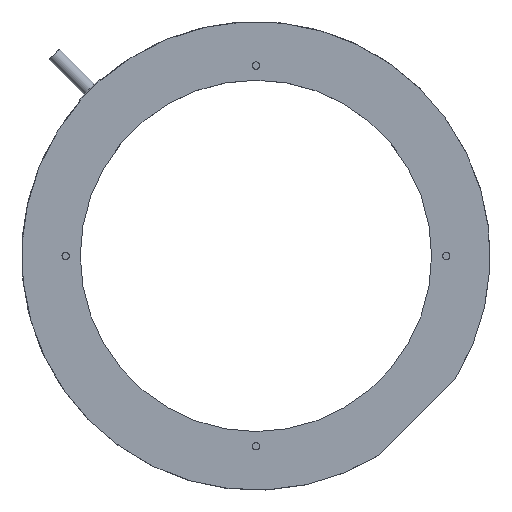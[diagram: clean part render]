
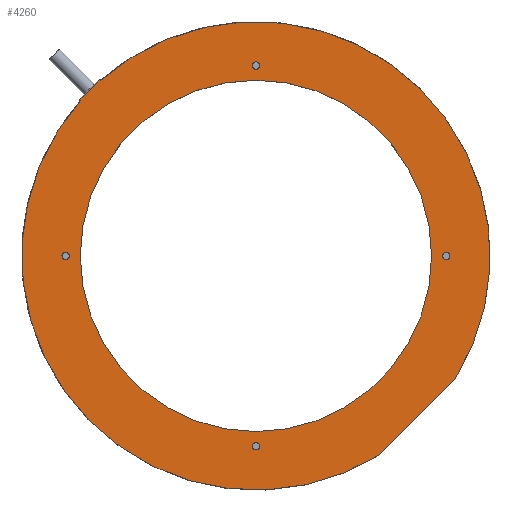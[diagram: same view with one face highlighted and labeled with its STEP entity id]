
A CAD part, top view. The second image highlights one B-rep face of the part: STEP entity #4260.
In plain terms, the highlighted planar face has unit normal (0, 0, 1).
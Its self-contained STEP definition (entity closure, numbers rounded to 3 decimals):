
#1350=CARTESIAN_POINT('',(0.,0.,2.));
#1351=DIRECTION('',(0.,0.,-1.));
#1352=DIRECTION('',(0.,-1.,0.));
#1353=AXIS2_PLACEMENT_3D('',#1350,#1351,#1352);
#1355=CARTESIAN_POINT('',(0.,0.,2.));
#1356=DIRECTION('',(0.,0.,-1.));
#1357=DIRECTION('',(0.,1.,0.));
#1358=AXIS2_PLACEMENT_3D('',#1355,#1356,#1357);
#1360=CARTESIAN_POINT('',(0.,65.,2.));
#1361=DIRECTION('',(0.,0.,-1.));
#1362=DIRECTION('',(0.,-1.,0.));
#1363=AXIS2_PLACEMENT_3D('',#1360,#1361,#1362);
#1365=CARTESIAN_POINT('',(0.,65.,2.));
#1366=DIRECTION('',(0.,0.,-1.));
#1367=DIRECTION('',(0.,1.,0.));
#1368=AXIS2_PLACEMENT_3D('',#1365,#1366,#1367);
#1370=CARTESIAN_POINT('',(65.,0.,2.));
#1371=DIRECTION('',(0.,0.,-1.));
#1372=DIRECTION('',(0.,-1.,0.));
#1373=AXIS2_PLACEMENT_3D('',#1370,#1371,#1372);
#1375=CARTESIAN_POINT('',(65.,0.,2.));
#1376=DIRECTION('',(0.,0.,-1.));
#1377=DIRECTION('',(0.,1.,0.));
#1378=AXIS2_PLACEMENT_3D('',#1375,#1376,#1377);
#1380=CARTESIAN_POINT('',(0.,-65.,2.));
#1381=DIRECTION('',(0.,0.,-1.));
#1382=DIRECTION('',(0.,-1.,0.));
#1383=AXIS2_PLACEMENT_3D('',#1380,#1381,#1382);
#1385=CARTESIAN_POINT('',(0.,-65.,2.));
#1386=DIRECTION('',(0.,0.,-1.));
#1387=DIRECTION('',(0.,1.,0.));
#1388=AXIS2_PLACEMENT_3D('',#1385,#1386,#1387);
#1390=CARTESIAN_POINT('',(-65.,0.,2.));
#1391=DIRECTION('',(0.,0.,-1.));
#1392=DIRECTION('',(0.,-1.,0.));
#1393=AXIS2_PLACEMENT_3D('',#1390,#1391,#1392);
#1395=CARTESIAN_POINT('',(-65.,0.,2.));
#1396=DIRECTION('',(0.,0.,-1.));
#1397=DIRECTION('',(0.,1.,0.));
#1398=AXIS2_PLACEMENT_3D('',#1395,#1396,#1397);
#1400=CARTESIAN_POINT('',(0.,0.,2.));
#1401=DIRECTION('',(0.,0.,1.));
#1402=DIRECTION('',(0.849,-0.528,0.));
#1403=AXIS2_PLACEMENT_3D('',#1400,#1401,#1402);
#1405=DIRECTION('',(0.707,0.707,0.));
#1406=VECTOR('',#1405,36.4);
#1407=CARTESIAN_POINT('',(42.216,-67.955,2.));
#1408=LINE('',#1407,#1406);
#1409=CARTESIAN_POINT('',(0.,0.,2.));
#1410=DIRECTION('',(0.,0.,1.));
#1411=DIRECTION('',(-0.748,0.663,0.));
#1412=AXIS2_PLACEMENT_3D('',#1409,#1410,#1411);
#1505=CARTESIAN_POINT('',(-53.073,59.861,2.));
#1507=DIRECTION('',(0.707,-0.707,0.));
#1508=VECTOR('',#1507,0.344);
#1509=CARTESIAN_POINT('',(-53.316,60.104,2.));
#1510=LINE('',#1509,#1508);
#1626=DIRECTION('',(0.707,0.707,0.));
#1627=VECTOR('',#1626,9.6);
#1628=CARTESIAN_POINT('',(-60.104,53.316,2.));
#1629=LINE('',#1628,#1627);
#1649=CARTESIAN_POINT('',(-59.861,53.073,2.));
#1670=DIRECTION('',(-0.707,0.707,0.));
#1671=VECTOR('',#1670,0.344);
#1672=CARTESIAN_POINT('',(-59.861,53.073,2.));
#1673=LINE('',#1672,#1671);
#2069=CARTESIAN_POINT('',(-53.316,60.104,2.));
#2070=VERTEX_POINT('',#2069);
#2071=CARTESIAN_POINT('',(-60.104,53.316,2.));
#2072=VERTEX_POINT('',#2071);
#2123=CARTESIAN_POINT('',(-65.,-1.25,2.));
#2124=CARTESIAN_POINT('',(-65.,1.25,2.));
#2125=VERTEX_POINT('',#2123);
#2126=VERTEX_POINT('',#2124);
#2127=CARTESIAN_POINT('',(0.,-66.25,2.));
#2128=CARTESIAN_POINT('',(0.,-63.75,2.));
#2129=VERTEX_POINT('',#2127);
#2130=VERTEX_POINT('',#2128);
#2131=CARTESIAN_POINT('',(65.,-1.25,2.));
#2132=CARTESIAN_POINT('',(65.,1.25,2.));
#2133=VERTEX_POINT('',#2131);
#2134=VERTEX_POINT('',#2132);
#2135=CARTESIAN_POINT('',(0.,63.75,2.));
#2136=CARTESIAN_POINT('',(0.,66.25,2.));
#2137=VERTEX_POINT('',#2135);
#2138=VERTEX_POINT('',#2136);
#2139=CARTESIAN_POINT('',(0.,-60.,2.));
#2140=CARTESIAN_POINT('',(0.,60.,2.));
#2141=VERTEX_POINT('',#2139);
#2142=VERTEX_POINT('',#2140);
#2143=CARTESIAN_POINT('',(42.216,-67.955,2.));
#2144=CARTESIAN_POINT('',(67.955,-42.216,2.));
#2145=VERTEX_POINT('',#2143);
#2146=VERTEX_POINT('',#2144);
#2156=VERTEX_POINT('',#1505);
#2157=VERTEX_POINT('',#1649);
#4212=CARTESIAN_POINT('',(-56.498,56.498,2.));
#4213=DIRECTION('',(0.,0.,1.));
#4214=DIRECTION('',(-0.707,0.707,0.));
#4215=AXIS2_PLACEMENT_3D('',#4212,#4213,#4214);
#4216=PLANE('',#4215);
#4218=ORIENTED_EDGE('',*,*,#4217,.T.);
#4220=ORIENTED_EDGE('',*,*,#4219,.F.);
#4222=ORIENTED_EDGE('',*,*,#4221,.F.);
#4224=ORIENTED_EDGE('',*,*,#4223,.F.);
#4226=ORIENTED_EDGE('',*,*,#4225,.T.);
#4228=ORIENTED_EDGE('',*,*,#4227,.T.);
#4229=EDGE_LOOP('',(#4218,#4220,#4222,#4224,#4226,#4228));
#4230=FACE_OUTER_BOUND('',#4229,.F.);
#4232=ORIENTED_EDGE('',*,*,#4231,.F.);
#4234=ORIENTED_EDGE('',*,*,#4233,.F.);
#4235=EDGE_LOOP('',(#4232,#4234));
#4236=FACE_BOUND('',#4235,.F.);
#4238=ORIENTED_EDGE('',*,*,#4237,.F.);
#4240=ORIENTED_EDGE('',*,*,#4239,.F.);
#4241=EDGE_LOOP('',(#4238,#4240));
#4242=FACE_BOUND('',#4241,.F.);
#4244=ORIENTED_EDGE('',*,*,#4243,.F.);
#4246=ORIENTED_EDGE('',*,*,#4245,.F.);
#4247=EDGE_LOOP('',(#4244,#4246));
#4248=FACE_BOUND('',#4247,.F.);
#4250=ORIENTED_EDGE('',*,*,#4249,.F.);
#4252=ORIENTED_EDGE('',*,*,#4251,.F.);
#4253=EDGE_LOOP('',(#4250,#4252));
#4254=FACE_BOUND('',#4253,.F.);
#4255=ORIENTED_EDGE('',*,*,#4202,.F.);
#4257=ORIENTED_EDGE('',*,*,#4256,.F.);
#4258=EDGE_LOOP('',(#4255,#4257));
#4259=FACE_BOUND('',#4258,.F.);
#4260=ADVANCED_FACE('',(#4230,#4236,#4242,#4248,#4254,#4259),#4216,.T.);
#1354=CIRCLE('',#1353,60.);
#1359=CIRCLE('',#1358,60.);
#1364=CIRCLE('',#1363,1.25);
#1369=CIRCLE('',#1368,1.25);
#1374=CIRCLE('',#1373,1.25);
#1379=CIRCLE('',#1378,1.25);
#1384=CIRCLE('',#1383,1.25);
#1389=CIRCLE('',#1388,1.25);
#1394=CIRCLE('',#1393,1.25);
#1399=CIRCLE('',#1398,1.25);
#1404=CIRCLE('',#1403,80.);
#1413=CIRCLE('',#1412,80.);
#4202=EDGE_CURVE('',#2141,#2142,#1354,.T.);
#4217=EDGE_CURVE('',#2070,#2156,#1510,.T.);
#4219=EDGE_CURVE('',#2146,#2156,#1404,.T.);
#4221=EDGE_CURVE('',#2145,#2146,#1408,.T.);
#4223=EDGE_CURVE('',#2157,#2145,#1413,.T.);
#4225=EDGE_CURVE('',#2157,#2072,#1673,.T.);
#4227=EDGE_CURVE('',#2072,#2070,#1629,.T.);
#4231=EDGE_CURVE('',#2137,#2138,#1364,.T.);
#4233=EDGE_CURVE('',#2138,#2137,#1369,.T.);
#4237=EDGE_CURVE('',#2133,#2134,#1374,.T.);
#4239=EDGE_CURVE('',#2134,#2133,#1379,.T.);
#4243=EDGE_CURVE('',#2129,#2130,#1384,.T.);
#4245=EDGE_CURVE('',#2130,#2129,#1389,.T.);
#4249=EDGE_CURVE('',#2125,#2126,#1394,.T.);
#4251=EDGE_CURVE('',#2126,#2125,#1399,.T.);
#4256=EDGE_CURVE('',#2142,#2141,#1359,.T.);
